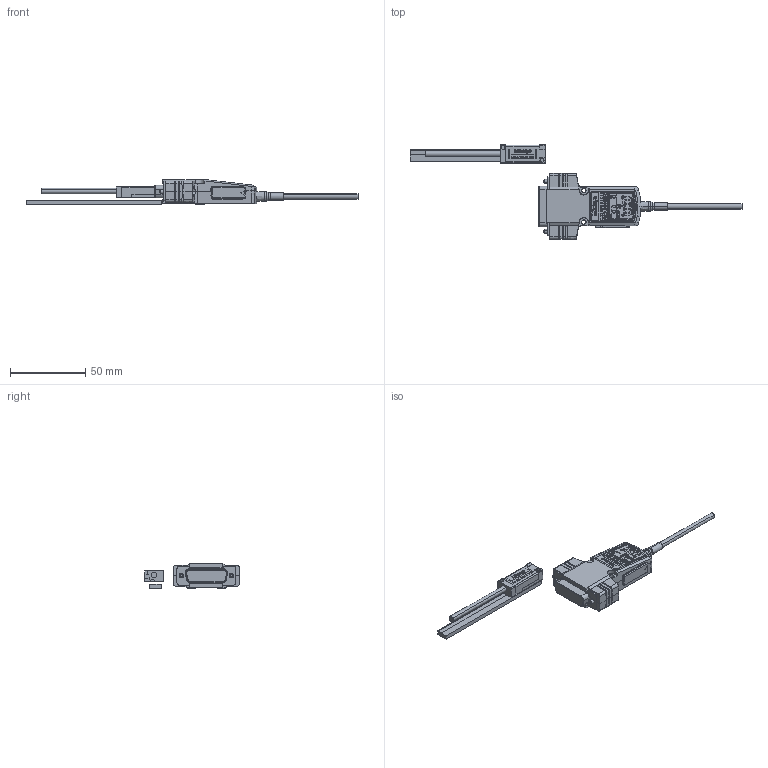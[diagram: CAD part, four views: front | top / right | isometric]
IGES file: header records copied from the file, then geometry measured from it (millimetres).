
Start section: Elysium IGES Interface
Global section: file name: 77H\\Utsu119s\kiyo_cad\data\3D\ST46EZA\HP掲載用_201708\ST46EZA-B\ST46EZA-75B.igs; native system: Creo Elements/Direct Modeling 18.1B  29-Sep-2012; preprocessor: Creo Element/Direct IGES_3D V2.2; author: Unknown; organization: Unknown; date: 20170913.154146; units: millimetre
Bounding box: 221 x 63.16 x 16.48 mm (x, y, z)
Volume: 5735.8 mm3; surface area: 15740.6 mm2
Topology: 3 solids, 5 shells, 2223 faces, 5923 edges, 3859 vertices
Faces by surface type: bspline 2223
